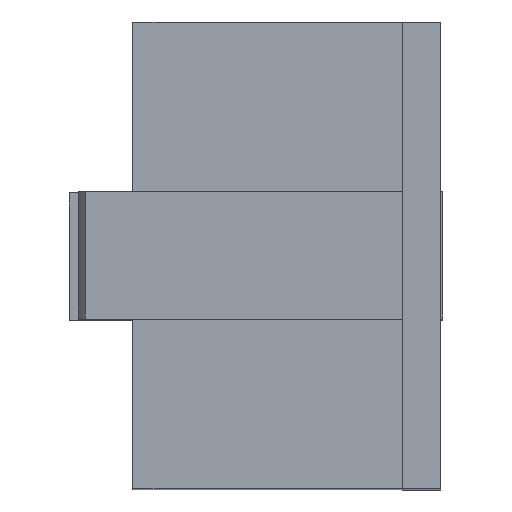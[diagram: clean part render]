
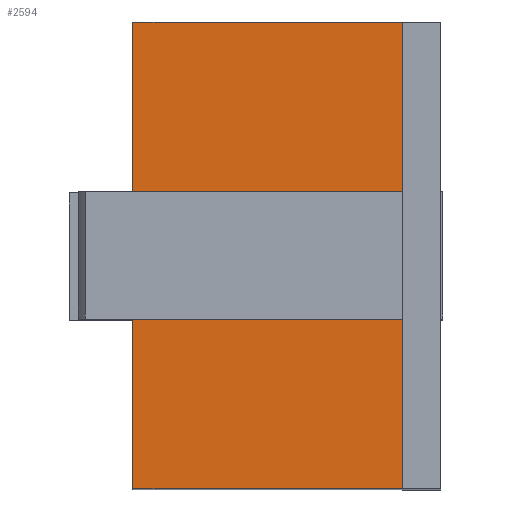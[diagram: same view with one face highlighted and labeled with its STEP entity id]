
A CAD part, top view. The second image highlights one B-rep face of the part: STEP entity #2594.
In plain terms, the highlighted planar face has unit normal (0, 0, 1).
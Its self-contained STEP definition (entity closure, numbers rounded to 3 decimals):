
#159 = PLANE('',#160);
#160 = AXIS2_PLACEMENT_3D('',#161,#162,#163);
#161 = CARTESIAN_POINT('',(-32.55,1.5,-9.));
#162 = DIRECTION('',(-0.,1.,-0.));
#163 = DIRECTION('',(0.,0.,-1.));
#400 = PLANE('',#401);
#401 = AXIS2_PLACEMENT_3D('',#402,#403,#404);
#402 = CARTESIAN_POINT('',(-33.2,12.5,-5.45));
#403 = DIRECTION('',(-0.,1.,-0.));
#404 = DIRECTION('',(0.,0.,-1.));
#1033 = VERTEX_POINT('',#1034);
#1034 = CARTESIAN_POINT('',(-33.45,1.5,4.85));
#1048 = PLANE('',#1049);
#1049 = AXIS2_PLACEMENT_3D('',#1050,#1051,#1052);
#1050 = CARTESIAN_POINT('',(-33.45,1.5,-9.));
#1051 = DIRECTION('',(-1.,-0.,-0.));
#1052 = DIRECTION('',(0.,0.,-1.));
#1060 = EDGE_CURVE('',#1033,#1061,#1063,.T.);
#1061 = VERTEX_POINT('',#1062);
#1062 = CARTESIAN_POINT('',(-39.8,1.5,4.85));
#1063 = SURFACE_CURVE('',#1064,(#1068,#1075),.PCURVE_S1.);
#1064 = LINE('',#1065,#1066);
#1065 = CARTESIAN_POINT('',(-33.2,1.5,4.85));
#1066 = VECTOR('',#1067,1.);
#1067 = DIRECTION('',(-1.,-0.,-0.));
#1068 = PCURVE('',#159,#1069);
#1069 = DEFINITIONAL_REPRESENTATION('',(#1070),#1074);
#1070 = LINE('',#1071,#1072);
#1071 = CARTESIAN_POINT('',(-13.85,0.65));
#1072 = VECTOR('',#1073,1.);
#1073 = DIRECTION('',(-0.,1.));
#1074 = ( GEOMETRIC_REPRESENTATION_CONTEXT(2) 
PARAMETRIC_REPRESENTATION_CONTEXT() REPRESENTATION_CONTEXT('2D SPACE',''
  ) );
#1075 = PCURVE('',#1076,#1081);
#1076 = PLANE('',#1077);
#1077 = AXIS2_PLACEMENT_3D('',#1078,#1079,#1080);
#1078 = CARTESIAN_POINT('',(-33.2,1.5,4.85));
#1079 = DIRECTION('',(0.,0.,1.));
#1080 = DIRECTION('',(1.,0.,-0.));
#1081 = DEFINITIONAL_REPRESENTATION('',(#1082),#1086);
#1082 = LINE('',#1083,#1084);
#1083 = CARTESIAN_POINT('',(0.,0.));
#1084 = VECTOR('',#1085,1.);
#1085 = DIRECTION('',(-1.,0.));
#1086 = ( GEOMETRIC_REPRESENTATION_CONTEXT(2) 
PARAMETRIC_REPRESENTATION_CONTEXT() REPRESENTATION_CONTEXT('2D SPACE',''
  ) );
#1104 = PLANE('',#1105);
#1105 = AXIS2_PLACEMENT_3D('',#1106,#1107,#1108);
#1106 = CARTESIAN_POINT('',(-39.8,1.5,-5.45));
#1107 = DIRECTION('',(-1.,-0.,-0.));
#1108 = DIRECTION('',(0.,0.,-1.));
#1534 = VERTEX_POINT('',#1535);
#1535 = CARTESIAN_POINT('',(-33.45,12.5,4.85));
#1556 = EDGE_CURVE('',#1534,#1557,#1559,.T.);
#1557 = VERTEX_POINT('',#1558);
#1558 = CARTESIAN_POINT('',(-39.8,12.5,4.85));
#1559 = SURFACE_CURVE('',#1560,(#1564,#1571),.PCURVE_S1.);
#1560 = LINE('',#1561,#1562);
#1561 = CARTESIAN_POINT('',(-33.2,12.5,4.85));
#1562 = VECTOR('',#1563,1.);
#1563 = DIRECTION('',(-1.,-0.,-0.));
#1564 = PCURVE('',#400,#1565);
#1565 = DEFINITIONAL_REPRESENTATION('',(#1566),#1570);
#1566 = LINE('',#1567,#1568);
#1567 = CARTESIAN_POINT('',(-10.3,-0.));
#1568 = VECTOR('',#1569,1.);
#1569 = DIRECTION('',(-0.,1.));
#1570 = ( GEOMETRIC_REPRESENTATION_CONTEXT(2) 
PARAMETRIC_REPRESENTATION_CONTEXT() REPRESENTATION_CONTEXT('2D SPACE',''
  ) );
#1571 = PCURVE('',#1076,#1572);
#1572 = DEFINITIONAL_REPRESENTATION('',(#1573),#1577);
#1573 = LINE('',#1574,#1575);
#1574 = CARTESIAN_POINT('',(0.,11.));
#1575 = VECTOR('',#1576,1.);
#1576 = DIRECTION('',(-1.,0.));
#1577 = ( GEOMETRIC_REPRESENTATION_CONTEXT(2) 
PARAMETRIC_REPRESENTATION_CONTEXT() REPRESENTATION_CONTEXT('2D SPACE',''
  ) );
#2458 = EDGE_CURVE('',#1033,#1534,#2459,.T.);
#2459 = SURFACE_CURVE('',#2460,(#2464,#2471),.PCURVE_S1.);
#2460 = LINE('',#2461,#2462);
#2461 = CARTESIAN_POINT('',(-33.45,1.5,4.85));
#2462 = VECTOR('',#2463,1.);
#2463 = DIRECTION('',(-0.,1.,-0.));
#2464 = PCURVE('',#1048,#2465);
#2465 = DEFINITIONAL_REPRESENTATION('',(#2466),#2470);
#2466 = LINE('',#2467,#2468);
#2467 = CARTESIAN_POINT('',(-13.85,0.));
#2468 = VECTOR('',#2469,1.);
#2469 = DIRECTION('',(0.,-1.));
#2470 = ( GEOMETRIC_REPRESENTATION_CONTEXT(2) 
PARAMETRIC_REPRESENTATION_CONTEXT() REPRESENTATION_CONTEXT('2D SPACE',''
  ) );
#2471 = PCURVE('',#1076,#2472);
#2472 = DEFINITIONAL_REPRESENTATION('',(#2473),#2477);
#2473 = LINE('',#2474,#2475);
#2474 = CARTESIAN_POINT('',(-0.25,0.));
#2475 = VECTOR('',#2476,1.);
#2476 = DIRECTION('',(0.,1.));
#2477 = ( GEOMETRIC_REPRESENTATION_CONTEXT(2) 
PARAMETRIC_REPRESENTATION_CONTEXT() REPRESENTATION_CONTEXT('2D SPACE',''
  ) );
#2594 = ADVANCED_FACE('',(#2595),#1076,.T.);
#2595 = FACE_BOUND('',#2596,.F.);
#2596 = EDGE_LOOP('',(#2597,#2598,#2599,#2600));
#2597 = ORIENTED_EDGE('',*,*,#1556,.F.);
#2598 = ORIENTED_EDGE('',*,*,#2458,.F.);
#2599 = ORIENTED_EDGE('',*,*,#1060,.T.);
#2600 = ORIENTED_EDGE('',*,*,#2601,.T.);
#2601 = EDGE_CURVE('',#1061,#1557,#2602,.T.);
#2602 = SURFACE_CURVE('',#2603,(#2607,#2614),.PCURVE_S1.);
#2603 = LINE('',#2604,#2605);
#2604 = CARTESIAN_POINT('',(-39.8,1.5,4.85));
#2605 = VECTOR('',#2606,1.);
#2606 = DIRECTION('',(0.,1.,0.));
#2607 = PCURVE('',#1076,#2608);
#2608 = DEFINITIONAL_REPRESENTATION('',(#2609),#2613);
#2609 = LINE('',#2610,#2611);
#2610 = CARTESIAN_POINT('',(-6.6,0.));
#2611 = VECTOR('',#2612,1.);
#2612 = DIRECTION('',(0.,1.));
#2613 = ( GEOMETRIC_REPRESENTATION_CONTEXT(2) 
PARAMETRIC_REPRESENTATION_CONTEXT() REPRESENTATION_CONTEXT('2D SPACE',''
  ) );
#2614 = PCURVE('',#1104,#2615);
#2615 = DEFINITIONAL_REPRESENTATION('',(#2616),#2620);
#2616 = LINE('',#2617,#2618);
#2617 = CARTESIAN_POINT('',(-10.3,0.));
#2618 = VECTOR('',#2619,1.);
#2619 = DIRECTION('',(0.,-1.));
#2620 = ( GEOMETRIC_REPRESENTATION_CONTEXT(2) 
PARAMETRIC_REPRESENTATION_CONTEXT() REPRESENTATION_CONTEXT('2D SPACE',''
  ) );
